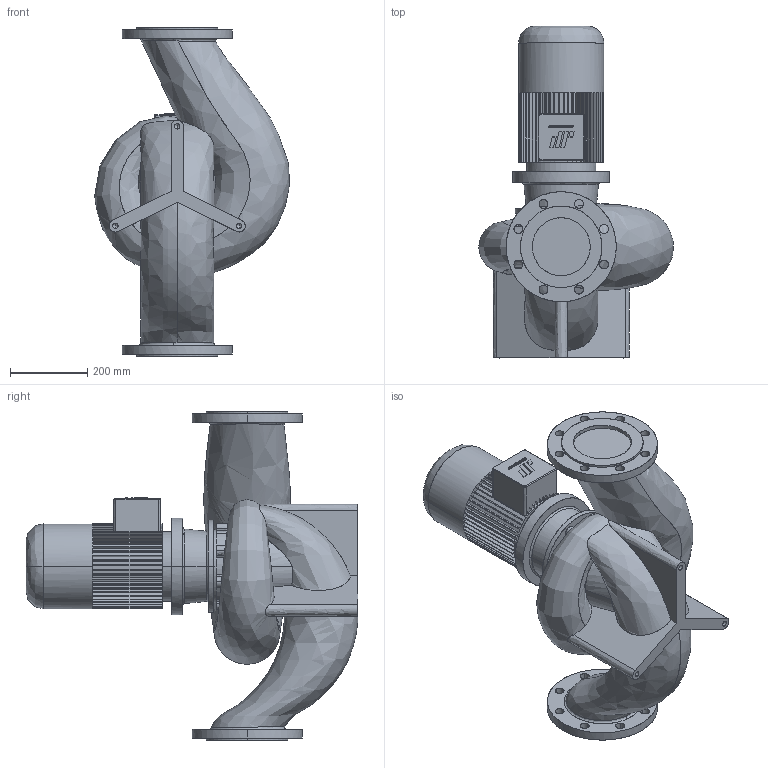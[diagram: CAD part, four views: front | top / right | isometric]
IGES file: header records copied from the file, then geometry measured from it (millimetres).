
Start section: CombiLine
Global section: file name: CLB_150-125_IEC112m_ND10.igs; native system:  By UGS Corp.; preprocessor: XPlus GENERIC/IGES 3.0; author: Stageplaats; organization: Johnson Pump Water B.V.; date: 20070718.093538; units: millimetre
Bounding box: 503.93 x 859 x 850 mm (x, y, z)
Surface area: 1993714.8 mm2 (no closed solid volume)
Topology: 0 solids, 0 shells, 555 faces, 3371 edges, 3365 vertices
Faces by surface type: bspline 555
